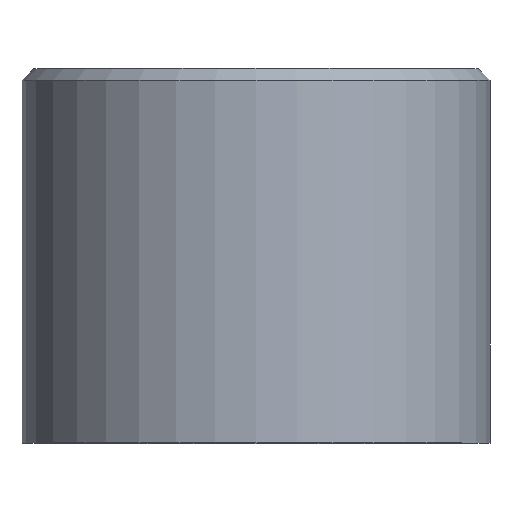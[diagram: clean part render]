
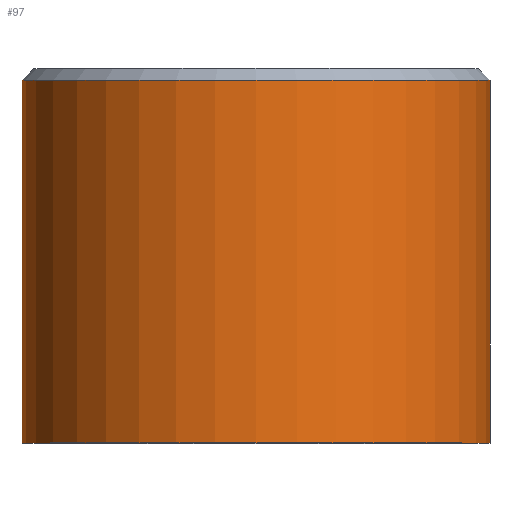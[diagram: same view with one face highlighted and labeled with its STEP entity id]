
A CAD part, top view. The second image highlights one B-rep face of the part: STEP entity #97.
In plain terms, the highlighted cylindrical face has radius 10 mm (diameter 20 mm), a full revolution.
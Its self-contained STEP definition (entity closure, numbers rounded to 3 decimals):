
#15=CYLINDRICAL_SURFACE('',#110,10.);
#23=FACE_BOUND('',#42,.T.);
#31=FACE_OUTER_BOUND('',#41,.T.);
#41=EDGE_LOOP('',(#81));
#42=EDGE_LOOP('',(#82));
#53=CIRCLE('',#106,10.);
#56=CIRCLE('',#111,10.);
#61=VERTEX_POINT('',#157);
#64=VERTEX_POINT('',#165);
#69=EDGE_CURVE('',#61,#61,#53,.T.);
#72=EDGE_CURVE('',#64,#64,#56,.T.);
#81=ORIENTED_EDGE('',*,*,#72,.T.);
#82=ORIENTED_EDGE('',*,*,#69,.F.);
#97=ADVANCED_FACE('',(#31,#23),#15,.T.);
#106=AXIS2_PLACEMENT_3D('',#158,#125,#126);
#110=AXIS2_PLACEMENT_3D('',#164,#133,#134);
#111=AXIS2_PLACEMENT_3D('',#166,#135,#136);
#125=DIRECTION('center_axis',(0.,1.,0.));
#126=DIRECTION('ref_axis',(1.,0.,0.));
#133=DIRECTION('center_axis',(0.,1.,0.));
#134=DIRECTION('ref_axis',(-1.,0.,0.));
#135=DIRECTION('center_axis',(0.,1.,0.));
#136=DIRECTION('ref_axis',(1.,0.,0.));
#157=CARTESIAN_POINT('',(-10.,15.5,0.));
#158=CARTESIAN_POINT('Origin',(0.,15.5,0.));
#164=CARTESIAN_POINT('Origin',(0.,8.,0.));
#165=CARTESIAN_POINT('',(-10.,0.,0.));
#166=CARTESIAN_POINT('Origin',(0.,0.,0.));
